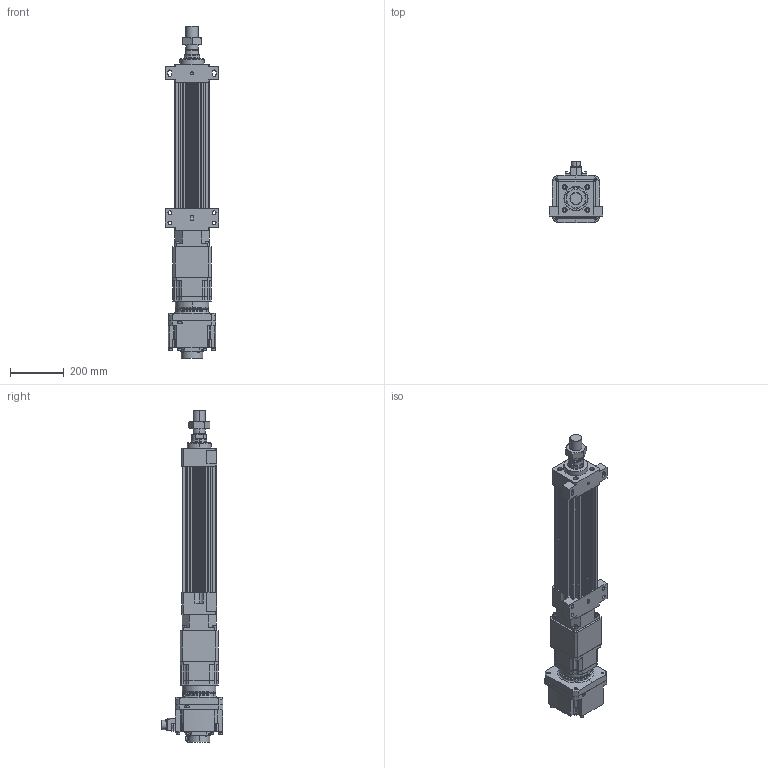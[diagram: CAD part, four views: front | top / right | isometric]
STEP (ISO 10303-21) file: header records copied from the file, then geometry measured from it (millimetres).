
FILE_DESCRIPTION (( 'STEP AP203' ), '1' );
FILE_NAME ('HES130FS(HS)-S250-W020G00-M-FFB.STEP', '2023-01-30T12:28:19', ( 'tms' ), ( '' ), 'SwSTEP 2.0', 'SolidWorks 2013', '' );
FILE_SCHEMA (( 'CONFIG_CONTROL_DESIGN' ));
Length unit declared in the file: millimetre
Products named in the file (9): HG-SR202; HES130FS(HS)-S250-W020G00-M-FFB; HES130-S250-G142-FFB; P1301500001; AB1421; HES130 ROD M ST250; AB142-003[HG-SR352]; P0403500801; M45X1.5P
Assembly tree (8 placements, depth 3):
  HES130FS(HS)-S250-W020G00-M-FFB
    HES130-S250-G142-FFB
    HES130 ROD M ST250
    M45X1.5P
    AB142-003[HG-SR352]
      AB1421
      P1301500001
      P0403500801
    HG-SR202
Bounding box: 200 x 228.85 x 1237.5 mm (x, y, z)
Volume: 11211324.1 mm3; surface area: 1407920.4 mm2
Topology: 4 solids, 22 shells, 1518 faces, 3922 edges, 2545 vertices
Faces by surface type: cylinder 676, plane 600, cone 160, bspline 76, torus 6
Entity records: 55270 total; most frequent: CARTESIAN_POINT 16778, DIRECTION 8032, ORIENTED_EDGE 7750, EDGE_CURVE 3897, AXIS2_PLACEMENT_3D 3016, VERTEX_POINT 2545, VECTOR 2000, LINE 2000
